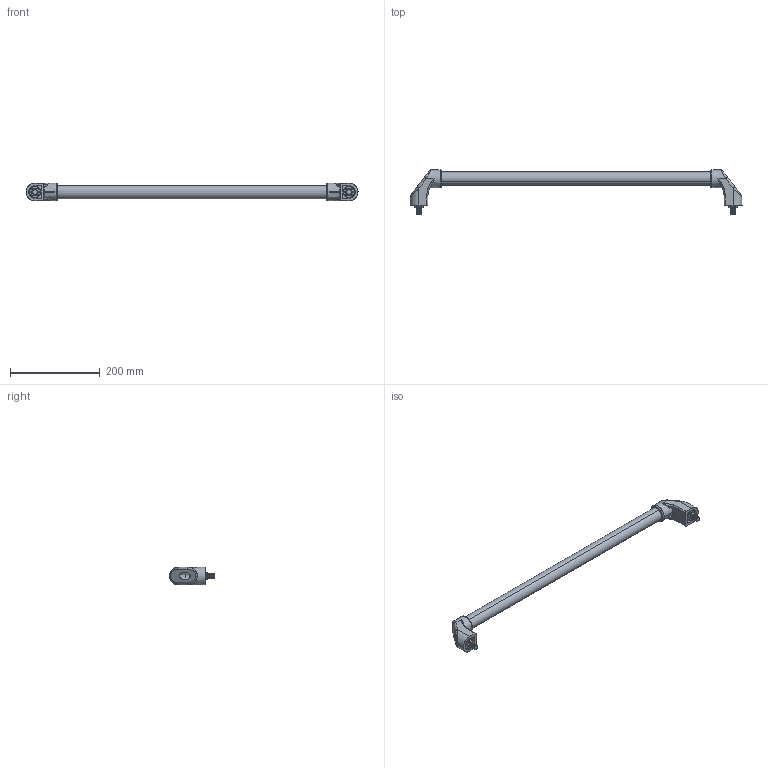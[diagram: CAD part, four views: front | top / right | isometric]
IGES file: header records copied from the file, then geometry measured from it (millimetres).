
Start section: SolidWorks IGES file using analytic representation for surfaces
Global section: file name: C:\Documents and Settings\Deathkiller\桌面\3D IGES\U型把手\MS-737-1-A\p=700.IGS; native system: SolidWorks 2006 by SolidWorks Corporation; preprocessor: SolidWorks 2006 by SolidWorks Corporation; author: Deathkiller; date: 080624.120333; units: millimetre
Bounding box: 740 x 99.5 x 40 mm (x, y, z)
Surface area: 160416.9 mm2 (no closed solid volume)
Topology: 0 solids, 0 shells, 318 faces, 6130 edges, 6114 vertices
Faces by surface type: revolution 210, bspline 108
